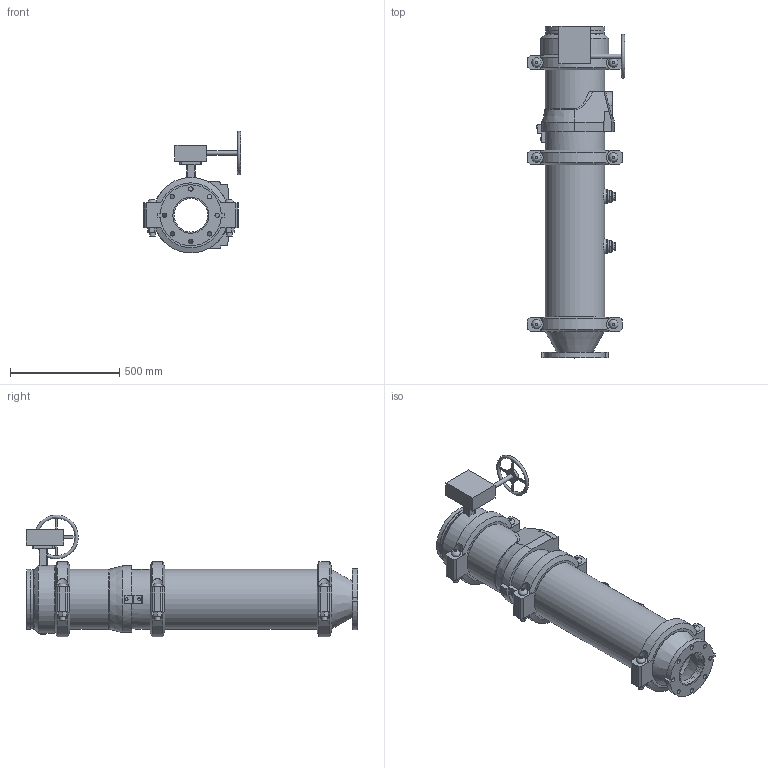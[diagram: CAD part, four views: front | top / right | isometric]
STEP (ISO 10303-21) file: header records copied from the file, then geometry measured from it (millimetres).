
FILE_DESCRIPTION(/* description */ ('VIC DVI PUMP DROP VERT S/390 (OGSxFLG)','CAx-IF Rec.Pracs.---Representation and Presentation of Product Manufacturing Information (PMI)---4.0---2014-10-13'),/* implementation_level */ '2;1');
FILE_NAME(/* name */ 'C:\Users\Vjadhav\AppData\Roaming\Autodesk\ApplicationPlugins\Back Up\Victaulic_IPS_Vertical DVI_PN10_Series 390 (OGSxFLG)\Victaulic_IPS_Vertical DVI_PN10_Series 390 (OGSxFLG)_10.0x06.0 (165.1) (250x150).stp',/* time_stamp */ '2020-11-09T17:51:57+05:00',/* author */ ('Vjadhav'),/* organization */ ('Victaulic'),/* preprocessor_version */ 'ST-DEVELOPER v17.2',/* originating_system */ 'Autodesk Inventor 2019',/* authorisation */ '');
FILE_SCHEMA (('TECHNICAL_DATA_PACKAGING','AP242_MANAGED_MODEL_BASED_3D_ENGINEERING_MIM_LF { 1 0 10303 442 1 1 4 }'));
Length unit declared in the file: inch
Products named in the file (8): 390-10.0x06.0 (165.1); 741-06.0 (165.1); 050-10.0x06.0 (165.1); Pipe-10.0; 716-10.0; 923-10.0x0.75; 761-10.0; 077-10.0
Assembly tree (10 placements, depth 2):
  390-10.0x06.0 (165.1)
    741-06.0 (165.1)
    050-10.0x06.0 (165.1)
    Pipe-10.0
    716-10.0
    923-10.0x0.75  x2
    761-10.0
    077-10.0  x3
Bounding box: 445.64 x 1520.7 x 558.01 mm (x, y, z)
Volume: 27491032.4 mm3; surface area: 3873734 mm2
Topology: 10 solids, 17 shells, 475 faces, 1192 edges, 810 vertices
Faces by surface type: plane 283, cylinder 158, cone 20, bspline 8, torus 6
Full cylindrical faces by diameter (mm): 10.922 x4, 12.7 x3, 20.066 x9, 21.336 x2, 22.86 x1, 25.4 x12, 26.67 x2, 27.432 x6, 45.974 x4, 55.626 x2, 63.079 x1, 70.104 x1, 76.2 x2, 154.051 x1, 160.782 x1, 165.1 x3, 254.508 x3, 260.35 x1, 264.16 x3, 268.275 x7, 273.05 x19, 311.15 x1
Entity records: 10225 total; most frequent: CARTESIAN_POINT 2044, DIRECTION 1665, ORIENTED_EDGE 1512, EDGE_CURVE 756, AXIS2_PLACEMENT_3D 646, VERTEX_POINT 519, EDGE_LOOP 375, LINE 373
